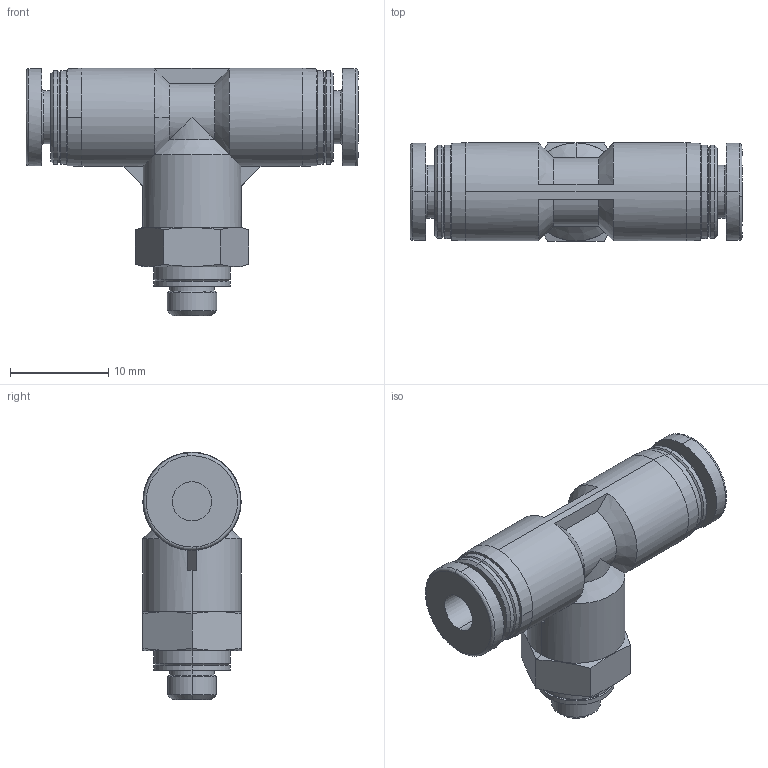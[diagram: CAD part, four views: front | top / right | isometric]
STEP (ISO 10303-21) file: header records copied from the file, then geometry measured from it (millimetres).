
FILE_DESCRIPTION (( 'STEP AP214' ), '1' );
FILE_NAME ('APT4-M5.STEP', '2019-12-05T06:47:14', ( '微软用户' ), ( '微软中国' ), 'SwSTEP 2.0', 'SolidWorks 2016', '' );
FILE_SCHEMA (( 'AUTOMOTIVE_DESIGN' ));
Length unit declared in the file: millimetre
Products named in the file (1): APT4-M5
Bounding box: 33.8 x 10 x 25.2 mm (x, y, z)
Volume: 3010.2 mm3; surface area: 2286.2 mm2
Topology: 1 solids, 1 shells, 121 faces, 281 edges, 174 vertices
Faces by surface type: cone 48, cylinder 36, plane 29, bspline 8
Entity records: 3927 total; most frequent: CARTESIAN_POINT 1169, DIRECTION 595, ORIENTED_EDGE 562, EDGE_CURVE 281, AXIS2_PLACEMENT_3D 249, VERTEX_POINT 174, CIRCLE 135, EDGE_LOOP 133
